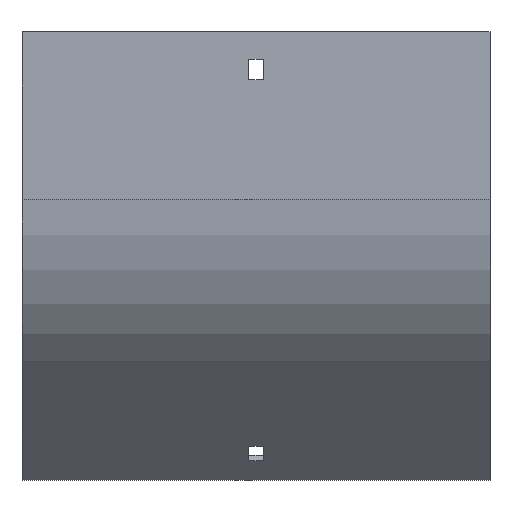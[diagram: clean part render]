
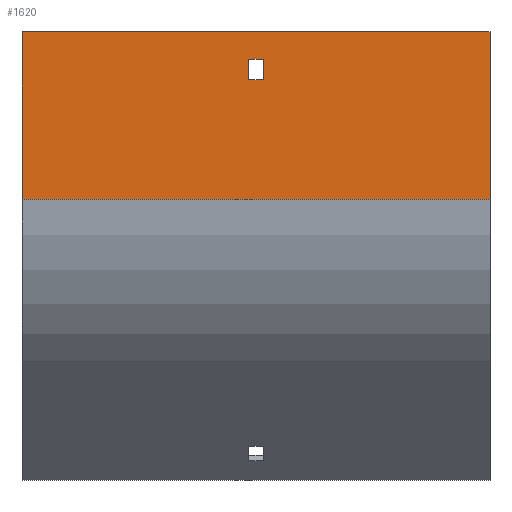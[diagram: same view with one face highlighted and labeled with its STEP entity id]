
A CAD part, front view. The second image highlights one B-rep face of the part: STEP entity #1620.
In plain terms, the highlighted planar face has unit normal (0, -1, 0).
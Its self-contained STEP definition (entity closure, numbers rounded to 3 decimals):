
#59 = EDGE_CURVE ( 'NONE', #1497, #909, #679, .T. ) ;
#113 = ORIENTED_EDGE ( 'NONE', *, *, #596, .T. ) ;
#122 = EDGE_CURVE ( 'NONE', #909, #854, #882, .T. ) ;
#140 = CARTESIAN_POINT ( 'NONE',  ( -3.25, -104., -21. ) ) ;
#147 = EDGE_CURVE ( 'NONE', #1833, #480, #551, .T. ) ;
#164 = EDGE_LOOP ( 'NONE', ( #377, #531, #721, #840 ) ) ;
#180 = EDGE_CURVE ( 'NONE', #1497, #766, #1007, .T. ) ;
#234 = CARTESIAN_POINT ( 'NONE',  ( 102., -104., 0. ) ) ;
#257 = LINE ( 'NONE', #1499, #782 ) ;
#268 = LINE ( 'NONE', #567, #846 ) ;
#288 = CARTESIAN_POINT ( 'NONE',  ( 3.25, -104., -21. ) ) ;
#341 = VECTOR ( 'NONE', #715, 1000. ) ;
#377 = ORIENTED_EDGE ( 'NONE', *, *, #1865, .T. ) ;
#378 = VECTOR ( 'NONE', #1111, 1000. ) ;
#389 = CARTESIAN_POINT ( 'NONE',  ( -3.25, -104., -21. ) ) ;
#396 = CARTESIAN_POINT ( 'NONE',  ( -102., -104., -73.078 ) ) ;
#399 = AXIS2_PLACEMENT_3D ( 'NONE', #1390, #1694, #1057 ) ;
#400 = ORIENTED_EDGE ( 'NONE', *, *, #1531, .T. ) ;
#443 = VECTOR ( 'NONE', #740, 1000. ) ;
#445 = DIRECTION ( 'NONE',  ( 0., 0., -1. ) ) ;
#480 = VERTEX_POINT ( 'NONE', #389 ) ;
#531 = ORIENTED_EDGE ( 'NONE', *, *, #122, .F. ) ;
#534 = EDGE_CURVE ( 'NONE', #480, #1316, #1913, .T. ) ;
#551 = LINE ( 'NONE', #1334, #443 ) ;
#567 = CARTESIAN_POINT ( 'NONE',  ( 3.25, -104., -21. ) ) ;
#579 = DIRECTION ( 'NONE',  ( -1., 0., 0. ) ) ;
#593 = DIRECTION ( 'NONE',  ( 1., 0., 0. ) ) ;
#596 = EDGE_CURVE ( 'NONE', #1196, #1833, #268, .T. ) ;
#604 = FACE_BOUND ( 'NONE', #780, .T. ) ;
#666 = ORIENTED_EDGE ( 'NONE', *, *, #534, .T. ) ;
#679 = LINE ( 'NONE', #1435, #378 ) ;
#685 = VECTOR ( 'NONE', #593, 1000. ) ;
#697 = VECTOR ( 'NONE', #579, 1000. ) ;
#715 = DIRECTION ( 'NONE',  ( 0., 0., 1. ) ) ;
#721 = ORIENTED_EDGE ( 'NONE', *, *, #59, .F. ) ;
#740 = DIRECTION ( 'NONE',  ( -1., 0., 0. ) ) ;
#766 = VERTEX_POINT ( 'NONE', #1570 ) ;
#780 = EDGE_LOOP ( 'NONE', ( #1901, #666, #400, #113 ) ) ;
#782 = VECTOR ( 'NONE', #445, 1000. ) ;
#840 = ORIENTED_EDGE ( 'NONE', *, *, #180, .T. ) ;
#846 = VECTOR ( 'NONE', #1171, 1000. ) ;
#854 = VERTEX_POINT ( 'NONE', #396 ) ;
#856 = CARTESIAN_POINT ( 'NONE',  ( 3.25, -104., -12. ) ) ;
#882 = LINE ( 'NONE', #1343, #697 ) ;
#909 = VERTEX_POINT ( 'NONE', #1272 ) ;
#1007 = LINE ( 'NONE', #1173, #1578 ) ;
#1057 = DIRECTION ( 'NONE',  ( 0., 0., 1. ) ) ;
#1073 = CARTESIAN_POINT ( 'NONE',  ( -3.25, -104., -12. ) ) ;
#1111 = DIRECTION ( 'NONE',  ( 0., 0., -1. ) ) ;
#1171 = DIRECTION ( 'NONE',  ( 0., 0., -1. ) ) ;
#1173 = CARTESIAN_POINT ( 'NONE',  ( 102., -104., 0. ) ) ;
#1196 = VERTEX_POINT ( 'NONE', #856 ) ;
#1235 = FACE_OUTER_BOUND ( 'NONE', #164, .T. ) ;
#1272 = CARTESIAN_POINT ( 'NONE',  ( 102., -104., -73.078 ) ) ;
#1316 = VERTEX_POINT ( 'NONE', #1073 ) ;
#1334 = CARTESIAN_POINT ( 'NONE',  ( -3.25, -104., -21. ) ) ;
#1343 = CARTESIAN_POINT ( 'NONE',  ( 102., -104., -73.078 ) ) ;
#1348 = LINE ( 'NONE', #1949, #685 ) ;
#1390 = CARTESIAN_POINT ( 'NONE',  ( 102., -104., -73.078 ) ) ;
#1435 = CARTESIAN_POINT ( 'NONE',  ( 102., -104., -73.078 ) ) ;
#1497 = VERTEX_POINT ( 'NONE', #234 ) ;
#1499 = CARTESIAN_POINT ( 'NONE',  ( -102., -104., -73.078 ) ) ;
#1531 = EDGE_CURVE ( 'NONE', #1316, #1196, #1348, .T. ) ;
#1570 = CARTESIAN_POINT ( 'NONE',  ( -102., -104., 0. ) ) ;
#1578 = VECTOR ( 'NONE', #1791, 1000. ) ;
#1620 = ADVANCED_FACE ( 'NONE', ( #604, #1235 ), #1676, .F. ) ;
#1676 = PLANE ( 'NONE',  #399 ) ;
#1694 = DIRECTION ( 'NONE',  ( 0., 1., 0. ) ) ;
#1791 = DIRECTION ( 'NONE',  ( -1., 0., 0. ) ) ;
#1833 = VERTEX_POINT ( 'NONE', #288 ) ;
#1865 = EDGE_CURVE ( 'NONE', #766, #854, #257, .T. ) ;
#1901 = ORIENTED_EDGE ( 'NONE', *, *, #147, .T. ) ;
#1913 = LINE ( 'NONE', #140, #341 ) ;
#1949 = CARTESIAN_POINT ( 'NONE',  ( -3.25, -104., -12. ) ) ;
